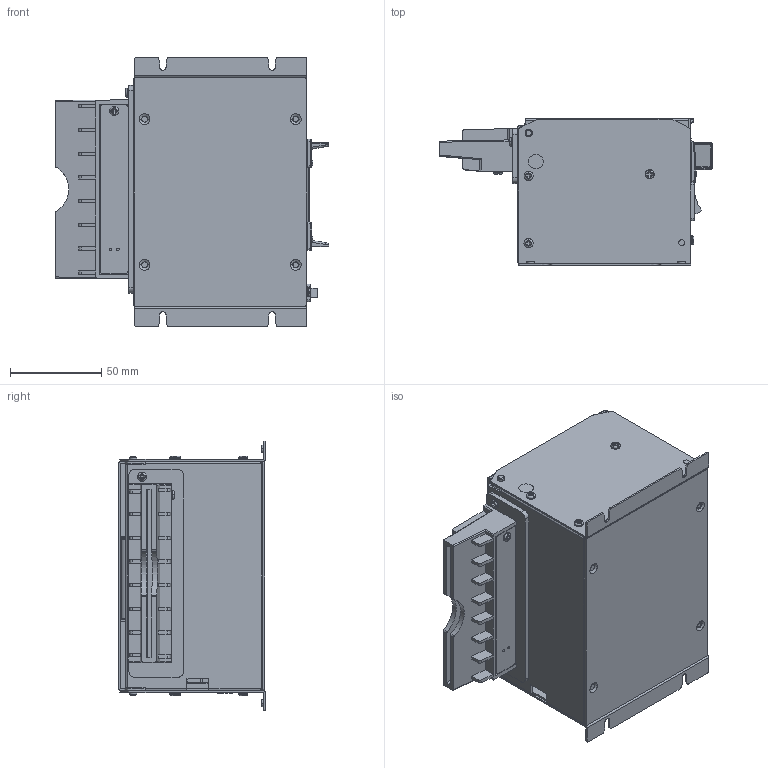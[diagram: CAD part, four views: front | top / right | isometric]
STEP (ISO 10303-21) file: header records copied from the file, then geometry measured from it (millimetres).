
FILE_DESCRIPTION((''),'2;1');
FILE_NAME('GD83H_SW0001','2025-10-17T15:18:27',('王强'),(''),'CREO PARAMETRIC BY PTC INC, 2019010','CREO PARAMETRIC BY PTC INC, 2019010','');
FILE_SCHEMA(('CONFIG_CONTROL_DESIGN'));
Products named in the file (1): GD83H_SW0001
Bounding box: 150.3 x 80.6 x 148 mm (x, y, z)
Volume: 112166.7 mm3; surface area: 189791.8 mm2
Topology: 3 solids, 7 shells, 1756 faces, 4802 edges, 3131 vertices
Faces by surface type: plane 963, cylinder 601, bspline 83, torus 73, cone 30, sphere 6
Entity records: 79076 total; most frequent: CARTESIAN_POINT 34740, ORIENTED_EDGE 9596, DIRECTION 8755, EDGE_CURVE 4798, VERTEX_POINT 3131, VECTOR 2993, LINE 2993, AXIS2_PLACEMENT_3D 2881
